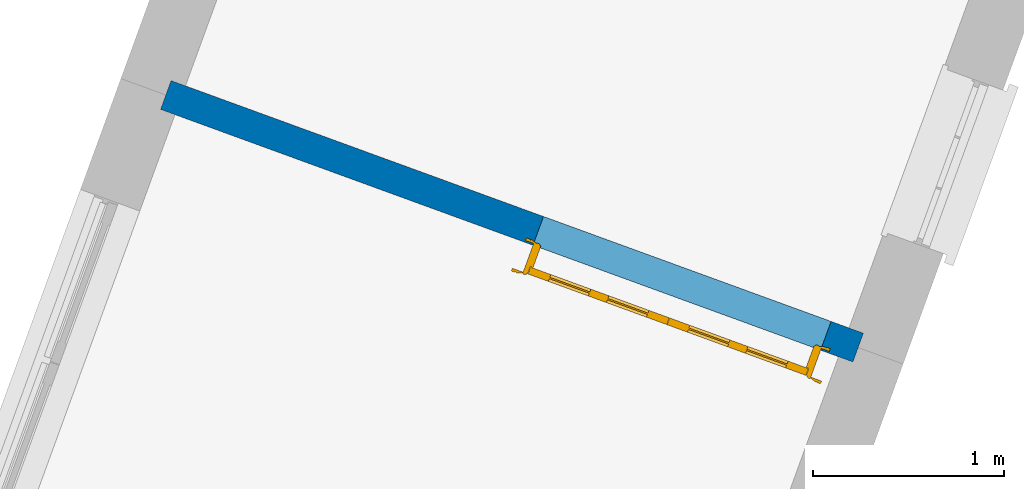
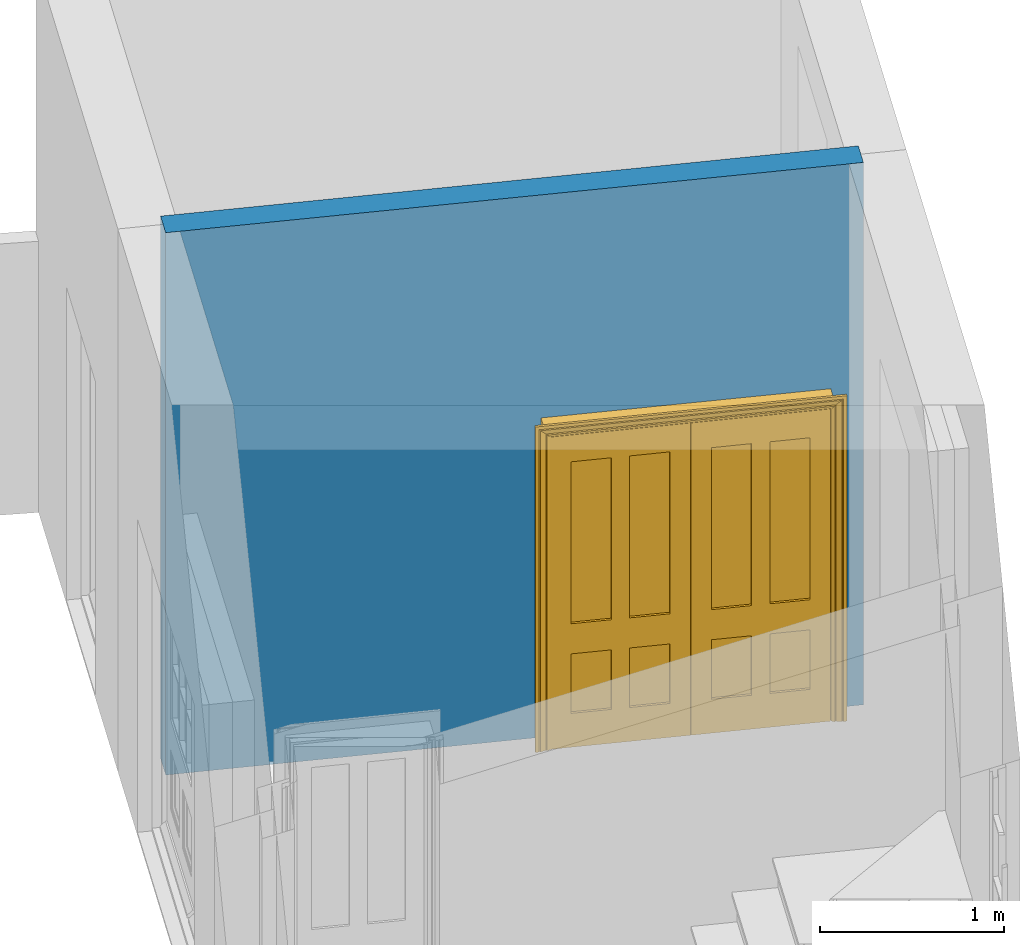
# One storey, part 5 of 6: 1 door, 1 wall, 1 opening.
"""IFC4 building model written with IfcOpenShell, lengths in metres."""

from ifc_helpers import new_model, si_unit, frame, origin, origin_with_axes, place, context, subcontext, project, spatial, polyline, outline, extrude, faceted_brep, source, transform, mapped, material, layer, layer_set, layer_usage, type_object, type_shapes, element, fill, save


model = new_model("IFC4")

# Units and contexts
model_context = context("Model", 3, world=origin_with_axes())
body_context = subcontext(model_context, "Body", "Model", "MODEL_VIEW")
ifc_project = project(units=[si_unit("PLANEANGLEUNIT", "RADIAN"), si_unit("MASSUNIT", "GRAM", prefix="KILO"), si_unit("FORCEUNIT", "NEWTON", prefix="KILO"), si_unit("LENGTHUNIT", "METRE"), si_unit("AREAUNIT", "SQUARE_METRE"), si_unit("VOLUMEUNIT", "CUBIC_METRE")], contexts=[model_context, model_context])

# Sites, building, storey
site_1_placement = place(None, origin_with_axes())
site_1 = spatial("IfcSite", under=ifc_project, at=site_1_placement, Name="Tamar")
site_2_placement = place(site_1_placement, origin_with_axes())
site_2 = spatial("IfcSite", under=site_1, at=site_2_placement, Name="Site plot-14", CompositionType="ELEMENT")
building_placement = place(None, origin_with_axes())
building = spatial("IfcBuilding", under=site_2, at=building_placement, Name="Building plot-14", CompositionType="ELEMENT")
storey_placement = place(None, frame((0.0, 0.0, 26.8), z_axis=(0.0, 0.0, 1.0), x_axis=(1.0, 0.0, 0.0)))
storey = spatial("IfcBuildingStorey", under=building, at=storey_placement, Name="plot-14 0", CompositionType="ELEMENT", Elevation=26.8)

# Wall, opening, door
ifc_material = material(Name="Masonry")
ifc_layer = layer(ifc_material, 0.16, ventilated=False)
ifc_layer_set = layer_set([ifc_layer], Name="interior_0.08_0.08")
ifc_layer_usage = layer_usage(ifc_layer_set, "AXIS2", "POSITIVE", -0.08)
wall_type = type_object("IfcWallType", Name="interior_0.08_0.08", PredefinedType="SOLIDWALL", material=ifc_layer_set)
wall_placement = place(storey_placement, frame((254.919564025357, 312.829905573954, 0.0), z_axis=(0.0, 0.0, 1.0), x_axis=(-0.939432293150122, 0.34273454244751, 0.0)))
wall = element("IfcWall", 1, at=wall_placement, inside=storey, type_object=wall_type, material=ifc_layer_usage, Name="interior", context=body_context, shape_type="SweptSolid", body=[
    extrude(outline(polyline([(1.9971149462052e-14, 0.0799999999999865), (-1.99613522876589e-14, -0.0799999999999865), (3.85200224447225, -0.0799999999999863), (3.85200224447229, 0.0799999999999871), (1.9971149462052e-14, 0.0799999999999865)])), origin_with_axes(), (0.0, 0.0, 1.0), 3.6),
])
opening_placement = place(wall_placement, frame((0.180000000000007, 0.0, 0.0199999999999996)))
opening = element("IfcOpeningElement", 2, at=opening_placement, cuts=wall, Name="My Opening", ObjectType="Opening", context=body_context, shape_type="SweptSolid", body=[
    extrude(outline(polyline([(0.0, -0.0999999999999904), (1.59999999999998, -0.0999999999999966), (1.6, 1.1), (1.50990331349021e-14, 1.10000000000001), (0.0, -0.0999999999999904)])), origin_with_axes(), (0.0, 0.0, 1.0), 2.1),
])
door_type = type_object("IfcDoorType", Name="door_inside_double", OperationType="SINGLE_SWING_LEFT", PredefinedType="NOTDEFINED")
shared_shape = source(origin(), body_context, "Body", "Brep", [
    faceted_brep([(0.14, 0.307, 1.895), (0.14, 0.307, 0.82), (0.363, 0.307, 0.82), (0.363, 0.307, 1.895), (0.14, 0.292, 1.895), (0.14, 0.292, 0.82), (0.363, 0.292, 0.82), (0.363, 0.292, 1.895), (0.027, 0.292, 1.895), (0.027, 0.292, 0.82), (0.363, 0.292, 0.62), (0.14, 0.292, 0.62), (0.463, 0.292, 0.82), (0.463, 0.292, 1.895), (0.363, 0.292, 2.073), (0.14, 0.292, 2.073), (0.027, 0.292, 2.073), (0.027, 0.33, 1.895), (0.027, 0.33, 0.82), (0.027, 0.292, 0.62), (0.463, 0.292, 0.62), (0.14, 0.307, 0.62), (0.363, 0.307, 0.62), (0.463, 0.307, 0.82), (0.463, 0.307, 1.895), (0.463, 0.292, 2.073), (0.14, 0.33, 2.073), (0.363, 0.33, 2.073), (0.027, 0.33, 2.073), (0.14, 0.33, 1.895), (0.14, 0.33, 0.82), (0.027, 0.33, 0.62), (0.027, 0.292, 0.225), (0.14, 0.292, 0.225), (0.363, 0.292, 0.225), (0.463, 0.292, 0.225), (0.686, 0.292, 0.62), (0.686, 0.292, 0.82), (0.14, 0.307, 0.225), (0.363, 0.307, 0.225), (0.686, 0.307, 0.82), (0.686, 0.307, 1.895), (0.686, 0.292, 1.895), (0.686, 0.292, 2.073), (0.463, 0.33, 2.073), (0.363, 0.33, 1.895), (0.14, 0.315, 1.895), (0.14, 0.315, 0.82), (0.14, 0.33, 0.62), (0.027, 0.33, 0.225), (0.027, 0.292, 0.0), (0.14, 0.292, 0.0), (0.363, 0.292, 0.0), (0.463, 0.292, 0.0), (0.463, 0.307, 0.225), (0.463, 0.307, 0.62), (0.686, 0.307, 0.62), (0.799, 0.292, 0.62), (0.799, 0.292, 0.82), (0.799, 0.292, 1.895), (0.799, 0.292, 2.073), (0.686, 0.33, 2.073), (0.463, 0.33, 1.895), (0.363, 0.315, 1.895), (0.363, 0.315, 0.82), (0.363, 0.33, 0.82), (0.363, 0.33, 0.62), (0.14, 0.33, 0.225), (0.027, 0.33, 0.0), (0.14, 0.33, 0.0), (0.363, 0.33, 0.0), (0.463, 0.33, 0.0), (0.686, 0.292, 0.0), (0.686, 0.292, 0.225), (0.686, 0.307, 0.225), (0.799, 0.292, 0.225), (0.799, 0.33, 0.62), (0.799, 0.33, 0.82), (0.799, 0.33, 1.895), (0.799, 0.33, 2.073), (0.686, 0.33, 1.895), (0.463, 0.33, 0.82), (0.463, 0.33, 0.62), (0.363, 0.315, 0.62), (0.14, 0.315, 0.62), (0.14, 0.315, 0.225), (0.363, 0.33, 0.225), (0.463, 0.33, 0.225), (0.686, 0.33, 0.0), (0.799, 0.292, 0.0), (0.799, 0.33, 0.225), (0.686, 0.33, 0.62), (0.686, 0.33, 0.82), (0.686, 0.315, 1.895), (0.463, 0.315, 1.895), (0.463, 0.315, 0.82), (0.363, 0.315, 0.225), (0.686, 0.33, 0.225), (0.799, 0.33, 0.0), (0.686, 0.315, 0.82), (0.463, 0.315, 0.62), (0.463, 0.315, 0.225), (0.686, 0.315, 0.62), (0.686, 0.315, 0.225), (1.46, 0.33, 1.895), (1.237, 0.33, 1.895), (1.237, 0.33, 2.073), (1.46, 0.33, 2.073), (1.46, 0.315, 1.895), (1.237, 0.315, 1.895), (1.137, 0.33, 1.895), (1.137, 0.33, 2.073), (1.237, 0.292, 2.073), (1.46, 0.292, 2.073), (1.573, 0.33, 1.895), (1.573, 0.33, 2.073), (1.46, 0.33, 0.82), (1.46, 0.315, 0.82), (1.237, 0.315, 0.82), (1.237, 0.33, 0.82), (1.137, 0.33, 0.82), (0.914, 0.33, 2.073), (0.914, 0.33, 1.895), (1.137, 0.292, 2.073), (1.237, 0.292, 1.895), (1.46, 0.292, 1.895), (1.573, 0.292, 2.073), (1.573, 0.33, 0.82), (1.573, 0.292, 1.895), (1.237, 0.33, 0.62), (1.137, 0.33, 0.62), (1.137, 0.315, 0.82), (1.137, 0.315, 1.895), (0.914, 0.292, 2.073), (0.914, 0.315, 1.895), (0.801, 0.33, 2.073), (0.801, 0.33, 1.895), (1.137, 0.292, 1.895), (1.237, 0.307, 1.895), (1.46, 0.307, 1.895), (1.573, 0.292, 0.82), (1.573, 0.33, 0.62), (1.46, 0.33, 0.62), (1.237, 0.33, 0.225), (1.137, 0.33, 0.225), (0.914, 0.33, 0.82), (0.914, 0.33, 0.62), (0.914, 0.315, 0.82), (0.801, 0.292, 2.073), (0.914, 0.292, 1.895), (0.801, 0.33, 0.82), (0.801, 0.292, 1.895), (1.137, 0.292, 0.82), (1.237, 0.292, 0.82), (1.237, 0.307, 0.82), (1.46, 0.307, 0.82), (1.46, 0.292, 0.82), (1.573, 0.292, 0.62), (1.573, 0.33, 0.225), (1.46, 0.33, 0.225), (1.46, 0.315, 0.62), (1.237, 0.315, 0.62), (1.237, 0.33, 0.0), (1.137, 0.33, 0.0), (1.137, 0.315, 0.225), (1.137, 0.315, 0.62), (1.237, 0.315, 0.225), (0.914, 0.315, 0.62), (0.801, 0.33, 0.62), (0.914, 0.307, 1.895), (1.137, 0.307, 1.895), (0.801, 0.292, 0.82), (1.137, 0.292, 0.62), (1.237, 0.292, 0.62), (1.137, 0.307, 0.82), (1.46, 0.292, 0.62), (1.573, 0.292, 0.225), (1.573, 0.33, 0.0), (1.46, 0.33, 0.0), (1.46, 0.315, 0.225), (1.237, 0.292, 0.0), (1.137, 0.292, 0.0), (0.914, 0.33, 0.225), (0.914, 0.33, 0.0), (0.914, 0.315, 0.225), (0.801, 0.33, 0.225), (0.801, 0.292, 0.62), (0.914, 0.292, 0.82), (0.914, 0.307, 0.82), (1.137, 0.292, 0.225), (1.237, 0.292, 0.225), (0.914, 0.292, 0.62), (1.46, 0.292, 0.225), (1.573, 0.292, 0.0), (1.46, 0.292, 0.0), (0.914, 0.292, 0.0), (0.801, 0.33, 0.0), (0.801, 0.292, 0.225), (1.237, 0.307, 0.225), (1.237, 0.307, 0.62), (1.137, 0.307, 0.62), (1.137, 0.307, 0.225), (1.46, 0.307, 0.62), (0.914, 0.307, 0.62), (1.46, 0.307, 0.225), (0.914, 0.292, 0.225), (0.801, 0.292, 0.0), (0.914, 0.307, 0.225), (0.02, 0.335, 0.0), (0.005, 0.34, 0.0), (0.005, 0.34, 2.095), (0.02, 0.335, 2.08), (0.02, 0.33, 0.0), (0.0, 0.335, 0.0), (0.0, 0.335, 2.1), (1.595, 0.34, 2.095), (1.58, 0.335, 2.08), (0.02, 0.33, 2.08), (0.0, 0.33, 0.0), (-0.032, 0.345, 0.0), (-0.032, 0.345, 2.132), (1.6, 0.335, 2.1), (1.595, 0.34, 0.0), (1.58, 0.335, 0.0), (1.58, 0.33, 2.08), (0.025, 0.33, 0.0), (0.025, 0.33, 2.075), (-0.04, 0.34, 0.0), (0.025, 0.29, 0.0), (0.0, 0.17, 0.0), (-0.04, 0.34, 2.14), (1.632, 0.345, 2.132), (1.6, 0.335, 0.0), (1.58, 0.33, 0.0), (1.575, 0.33, 2.075), (0.025, 0.29, 2.075), (-0.06, 0.33, 0.0), (0.035, 0.17, 0.0), (0.0, 0.17, 2.1), (0.0, 0.33, 2.1), (-0.04, 0.345, 0.0), (-0.04, 0.345, 2.14), (1.64, 0.34, 2.14), (1.632, 0.345, 0.0), (1.6, 0.33, 0.0), (1.575, 0.33, 0.0), (1.575, 0.29, 2.075), (0.04, 0.29, 0.0), (0.04, 0.29, 2.06), (-0.06, 0.345, 0.0), (-0.06, 0.33, 2.16), (0.015, 0.165, 0.0), (0.04, 0.17, 0.0), (-0.045, 0.17, 2.145), (-0.045, 0.17, 0.0), (1.6, 0.17, 2.1), (1.6, 0.33, 2.1), (-0.06, 0.345, 2.16), (1.64, 0.345, 2.14), (1.64, 0.34, 0.0), (1.6, 0.17, 0.0), (1.575, 0.29, 0.0), (1.56, 0.29, 2.06), (0.04, 0.17, 2.06), (1.66, 0.33, 2.16), (-0.017, 0.155, 0.0), (-0.025, 0.16, 0.0), (0.02, 0.16, 0.0), (0.035, 0.165, 0.0), (0.035, 0.17, 2.065), (1.645, 0.17, 2.145), (-0.045, 0.155, 2.145), (-0.045, 0.155, 0.0), (1.66, 0.345, 2.16), (1.64, 0.345, 0.0), (1.66, 0.33, 0.0), (1.565, 0.17, 0.0), (1.56, 0.29, 0.0), (1.56, 0.17, 2.06), (-0.017, 0.155, 2.117), (-0.025, 0.16, 2.125), (0.015, 0.165, 2.085), (0.02, 0.16, 2.08), (0.035, 0.165, 2.065), (1.565, 0.17, 2.065), (1.645, 0.17, 0.0), (1.645, 0.155, 2.145), (-0.025, 0.155, 0.0), (1.66, 0.345, 0.0), (1.585, 0.165, 0.0), (1.56, 0.17, 0.0), (1.617, 0.155, 2.117), (1.625, 0.16, 2.125), (-0.025, 0.155, 2.125), (1.585, 0.165, 2.085), (1.58, 0.16, 2.08), (1.565, 0.165, 2.065), (1.625, 0.16, 0.0), (1.645, 0.155, 0.0), (1.625, 0.155, 2.125), (1.617, 0.155, 0.0), (1.565, 0.165, 0.0), (1.58, 0.16, 0.0), (1.625, 0.155, 0.0)], [[[0, 1, 2, 3]], [[1, 0, 4, 5]], [[2, 1, 5, 6]], [[6, 7, 3, 2]], [[7, 4, 0, 3]], [[4, 8, 9, 5]], [[10, 6, 5, 11]], [[6, 12, 13, 7]], [[14, 15, 4, 7]], [[15, 16, 8, 4]], [[9, 8, 17, 18]], [[5, 9, 19, 11]], [[10, 20, 12, 6]], [[10, 11, 21, 22]], [[13, 12, 23, 24]], [[7, 13, 25, 14]], [[26, 15, 14, 27]], [[28, 16, 15, 26]], [[8, 16, 28, 17]], [[17, 29, 30, 18]], [[18, 31, 19, 9]], [[11, 19, 32, 33]], [[34, 35, 20, 10]], [[20, 36, 37, 12]], [[11, 33, 38, 21]], [[39, 22, 21, 38]], [[34, 10, 22, 39]], [[12, 37, 40, 23]], [[24, 23, 40, 41]], [[42, 13, 24, 41]], [[13, 42, 43, 25]], [[14, 25, 44, 27]], [[26, 27, 45, 29]], [[28, 26, 29, 17]], [[30, 29, 46, 47]], [[18, 30, 48, 31]], [[31, 49, 32, 19]], [[33, 32, 50, 51]], [[52, 53, 35, 34]], [[20, 35, 54, 55]], [[36, 20, 55, 56]], [[36, 57, 58, 37]], [[33, 34, 39, 38]], [[37, 42, 41, 40]], [[42, 59, 60, 43]], [[44, 25, 43, 61]], [[62, 45, 27, 44]], [[29, 45, 63, 46]], [[46, 63, 64, 47]], [[65, 30, 47, 64]], [[30, 65, 66, 48]], [[31, 48, 67, 49]], [[68, 50, 32, 49]], [[68, 69, 51, 50]], [[34, 33, 51, 52]], [[53, 52, 70, 71]], [[53, 72, 73, 35]], [[35, 73, 74, 54]], [[55, 54, 74, 56]], [[73, 36, 56, 74]], [[73, 75, 57, 36]], [[57, 76, 77, 58]], [[37, 58, 59, 42]], [[78, 79, 60, 59]], [[60, 79, 61, 43]], [[80, 62, 44, 61]], [[81, 65, 45, 62]], [[45, 65, 64, 63]], [[82, 66, 65, 81]], [[48, 66, 83, 84]], [[67, 48, 84, 85]], [[49, 67, 69, 68]], [[52, 51, 69, 70]], [[71, 70, 86, 87]], [[72, 53, 71, 88]], [[72, 89, 75, 73]], [[75, 90, 76, 57]], [[76, 91, 92, 77]], [[78, 59, 58, 77]], [[78, 80, 61, 79]], [[62, 80, 93, 94]], [[81, 62, 94, 95]], [[87, 86, 66, 82]], [[91, 82, 81, 92]], [[66, 86, 96, 83]], [[84, 83, 96, 85]], [[86, 67, 85, 96]], [[67, 86, 70, 69]], [[88, 71, 87, 97]], [[89, 72, 88, 98]], [[89, 98, 90, 75]], [[90, 97, 91, 76]], [[80, 78, 77, 92]], [[80, 92, 99, 93]], [[99, 95, 94, 93]], [[92, 81, 95, 99]], [[87, 82, 100, 101]], [[82, 91, 102, 100]], [[97, 87, 101, 103]], [[98, 88, 97, 90]], [[91, 97, 103, 102]], [[103, 101, 100, 102]], [[104, 105, 106, 107]], [[105, 104, 108, 109]], [[105, 110, 111, 106]], [[106, 112, 113, 107]], [[114, 104, 107, 115]], [[104, 116, 117, 108]], [[117, 118, 109, 108]], [[119, 105, 109, 118]], [[119, 120, 110, 105]], [[121, 111, 110, 122]], [[123, 112, 106, 111]], [[124, 125, 113, 112]], [[126, 115, 107, 113]], [[104, 114, 127, 116]], [[114, 115, 126, 128]], [[116, 119, 118, 117]], [[129, 130, 120, 119]], [[110, 120, 131, 132]], [[121, 133, 123, 111]], [[122, 110, 132, 134]], [[135, 121, 122, 136]], [[137, 124, 112, 123]], [[125, 124, 138, 139]], [[125, 128, 126, 113]], [[114, 128, 140, 127]], [[141, 142, 116, 127]], [[142, 129, 119, 116]], [[143, 144, 130, 129]], [[145, 120, 130, 146]], [[120, 145, 147, 131]], [[134, 132, 131, 147]], [[135, 148, 133, 121]], [[123, 133, 149, 137]], [[145, 122, 134, 147]], [[136, 122, 145, 150]], [[151, 148, 135, 136]], [[152, 153, 124, 137]], [[124, 153, 154, 138]], [[138, 154, 155, 139]], [[156, 125, 139, 155]], [[156, 140, 128, 125]], [[157, 141, 127, 140]], [[158, 159, 142, 141]], [[129, 142, 160, 161]], [[162, 163, 144, 143]], [[130, 144, 164, 165]], [[143, 129, 161, 166]], [[146, 130, 165, 167]], [[150, 145, 146, 168]], [[133, 148, 151, 149]], [[137, 149, 169, 170]], [[171, 151, 136, 150]], [[172, 173, 153, 152]], [[152, 137, 170, 174]], [[153, 156, 155, 154]], [[175, 157, 140, 156]], [[176, 158, 141, 157]], [[177, 178, 159, 158]], [[142, 159, 179, 160]], [[179, 166, 161, 160]], [[180, 181, 163, 162]], [[182, 144, 163, 183]], [[178, 162, 143, 159]], [[144, 182, 184, 164]], [[167, 165, 164, 184]], [[159, 143, 166, 179]], [[182, 146, 167, 184]], [[168, 146, 182, 185]], [[150, 168, 186, 171]], [[149, 151, 171, 187]], [[149, 187, 188, 169]], [[169, 188, 174, 170]], [[189, 190, 173, 172]], [[173, 175, 156, 153]], [[172, 152, 187, 191]], [[187, 152, 174, 188]], [[192, 176, 157, 175]], [[193, 177, 158, 176]], [[193, 194, 178, 177]], [[181, 180, 190, 189]], [[181, 195, 183, 163]], [[194, 180, 162, 178]], [[185, 182, 183, 196]], [[168, 185, 197, 186]], [[187, 171, 186, 191]], [[173, 190, 198, 199]], [[189, 172, 200, 201]], [[175, 173, 199, 202]], [[172, 191, 203, 200]], [[194, 193, 176, 192]], [[192, 175, 202, 204]], [[180, 194, 192, 190]], [[189, 205, 195, 181]], [[196, 183, 195, 206]], [[196, 206, 197, 185]], [[191, 186, 197, 205]], [[190, 192, 204, 198]], [[199, 198, 204, 202]], [[201, 200, 203, 207]], [[205, 189, 201, 207]], [[191, 205, 207, 203]], [[205, 197, 206, 195]], [[208, 209, 210, 211]], [[208, 212, 213, 209]], [[209, 213, 214, 210]], [[211, 210, 215, 216]], [[211, 217, 212, 208]], [[218, 213, 212]], [[213, 219, 220, 214]], [[210, 214, 221, 215]], [[216, 215, 222, 223]], [[217, 211, 216, 224]], [[225, 212, 217, 226]], [[219, 213, 218, 227]], [[218, 212, 228, 229]], [[219, 227, 230, 220]], [[214, 220, 231, 221]], [[215, 221, 232, 222]], [[222, 232, 233, 223]], [[224, 216, 223, 233]], [[226, 217, 224, 234]], [[225, 228, 212]], [[235, 228, 225, 226]], [[236, 227, 218]], [[237, 229, 228]], [[229, 238, 239, 218]], [[227, 240, 241, 230]], [[220, 230, 242, 231]], [[221, 231, 243, 232]], [[244, 233, 232]], [[234, 224, 233, 245]], [[246, 235, 226, 234]], [[247, 228, 235, 248]], [[240, 227, 236, 249]], [[239, 250, 236, 218]], [[251, 229, 237]], [[252, 237, 228, 247]], [[253, 238, 229, 254]], [[238, 255, 256, 239]], [[241, 240, 257]], [[230, 241, 258, 242]], [[231, 242, 259, 243]], [[259, 244, 232, 243]], [[260, 261, 233, 244]], [[245, 233, 261]], [[261, 246, 234, 245]], [[248, 235, 246, 262]], [[248, 263, 252, 247]], [[250, 257, 249, 236]], [[240, 249, 257]], [[256, 264, 250, 239]], [[265, 266, 229, 251]], [[267, 251, 237, 268]], [[263, 269, 237, 252]], [[270, 255, 238, 253]], [[229, 266, 254]], [[271, 253, 254, 272]], [[256, 255, 260, 244]], [[273, 241, 257]], [[273, 258, 241]], [[242, 258, 274, 259]], [[275, 244, 259]], [[260, 276, 261]], [[261, 277, 262, 246]], [[262, 278, 263, 248]], [[264, 273, 257, 250]], [[244, 275, 264, 256]], [[266, 265, 279, 280]], [[265, 251, 281, 279]], [[251, 267, 282, 281]], [[269, 283, 268, 237]], [[267, 268, 283, 282]], [[278, 284, 269, 263]], [[285, 260, 255, 270]], [[286, 270, 253, 271]], [[272, 254, 266, 287]], [[271, 272, 287]], [[273, 274, 258]], [[288, 275, 259, 274]], [[276, 260, 289]], [[277, 261, 276, 290]], [[278, 262, 277, 290]], [[275, 288, 273, 264]], [[280, 279, 291, 292]], [[287, 266, 280, 293]], [[279, 281, 294, 291]], [[281, 282, 295, 294]], [[284, 296, 283, 269]], [[282, 283, 296, 295]], [[290, 276, 284, 278]], [[285, 297, 260]], [[298, 285, 270, 286]], [[299, 286, 271]], [[271, 287, 293]], [[273, 288, 274]], [[300, 289, 260, 297]], [[301, 276, 289, 302]], [[292, 291, 300, 297]], [[293, 280, 292, 299]], [[291, 294, 289, 300]], [[294, 295, 302, 289]], [[296, 284, 276, 301]], [[295, 296, 301, 302]], [[303, 297, 285, 298]], [[299, 298, 286]], [[271, 293, 299]], [[299, 292, 297, 303]], [[299, 303, 298]]]),
])
type_shapes(door_type, [shared_shape])
door_placement = place(storey_placement, frame((254.784739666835, 312.98554102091, 0.0199999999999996), z_axis=(0.0, 0.0, 1.0), x_axis=(-1.50309166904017, 0.548375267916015, 0.0)))
door = element("IfcDoor", 3, at=door_placement, inside=storey, type_object=door_type, Name="kitchen living inside door", OverallHeight=2.1, OverallWidth=1.6, context=body_context, shape_type="MappedRepresentation", body=[
    mapped(shared_shape, transform((0.0, 0.0, 0.0), scale=1.0)),
])
fill(opening, door)

save(model, "model.ifc")
